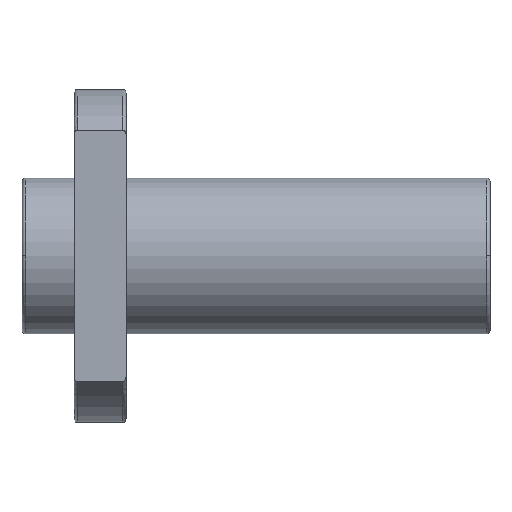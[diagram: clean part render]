
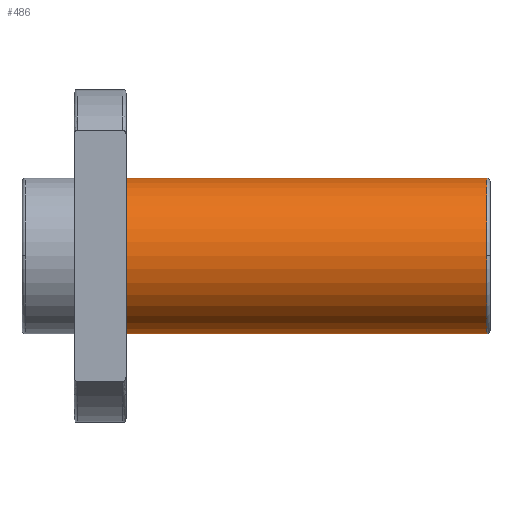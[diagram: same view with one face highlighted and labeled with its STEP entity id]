
A CAD part, top view. The second image highlights one B-rep face of the part: STEP entity #486.
In plain terms, the highlighted cylindrical face has radius 7.5 mm (diameter 15 mm), a partial arc.
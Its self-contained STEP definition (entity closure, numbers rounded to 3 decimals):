
#335 = TOROIDAL_SURFACE('',#336,7.18,0.32);
#336 = AXIS2_PLACEMENT_3D('',#337,#338,#339);
#337 = CARTESIAN_POINT('',(44.68,0.,0.));
#338 = DIRECTION('',(1.,0.,0.));
#339 = DIRECTION('',(0.,0.,-1.));
#347 = TOROIDAL_SURFACE('',#348,7.18,0.32);
#348 = AXIS2_PLACEMENT_3D('',#349,#350,#351);
#349 = CARTESIAN_POINT('',(44.68,0.,0.));
#350 = DIRECTION('',(1.,0.,0.));
#351 = DIRECTION('',(0.,0.,-1.));
#360 = VERTEX_POINT('',#361);
#361 = CARTESIAN_POINT('',(44.68,7.5,0.));
#376 = CYLINDRICAL_SURFACE('',#377,7.5);
#377 = AXIS2_PLACEMENT_3D('',#378,#379,#380);
#378 = CARTESIAN_POINT('',(27.34,0.,0.));
#379 = DIRECTION('',(1.,0.,0.));
#380 = DIRECTION('',(-0.,1.,0.));
#388 = EDGE_CURVE('',#360,#389,#391,.T.);
#389 = VERTEX_POINT('',#390);
#390 = CARTESIAN_POINT('',(44.68,0.,7.5));
#391 = SURFACE_CURVE('',#392,(#397,#404),.PCURVE_S1.);
#392 = CIRCLE('',#393,7.5);
#393 = AXIS2_PLACEMENT_3D('',#394,#395,#396);
#394 = CARTESIAN_POINT('',(44.68,0.,0.));
#395 = DIRECTION('',(1.,0.,0.));
#396 = DIRECTION('',(-0.,1.,0.));
#397 = PCURVE('',#335,#398);
#398 = DEFINITIONAL_REPRESENTATION('',(#399),#403);
#399 = LINE('',#400,#401);
#400 = CARTESIAN_POINT('',(1.571,0.));
#401 = VECTOR('',#402,1.);
#402 = DIRECTION('',(1.,0.));
#403 = ( GEOMETRIC_REPRESENTATION_CONTEXT(2) 
PARAMETRIC_REPRESENTATION_CONTEXT() REPRESENTATION_CONTEXT('2D SPACE',''
  ) );
#404 = PCURVE('',#405,#410);
#405 = CYLINDRICAL_SURFACE('',#406,7.5);
#406 = AXIS2_PLACEMENT_3D('',#407,#408,#409);
#407 = CARTESIAN_POINT('',(27.34,0.,0.));
#408 = DIRECTION('',(1.,0.,0.));
#409 = DIRECTION('',(-0.,1.,0.));
#410 = DEFINITIONAL_REPRESENTATION('',(#411),#415);
#411 = LINE('',#412,#413);
#412 = CARTESIAN_POINT('',(0.,17.34));
#413 = VECTOR('',#414,1.);
#414 = DIRECTION('',(1.,0.));
#415 = ( GEOMETRIC_REPRESENTATION_CONTEXT(2) 
PARAMETRIC_REPRESENTATION_CONTEXT() REPRESENTATION_CONTEXT('2D SPACE',''
  ) );
#486 = ADVANCED_FACE('',(#487),#405,.T.);
#487 = FACE_BOUND('',#488,.T.);
#488 = EDGE_LOOP('',(#489,#512,#541,#564,#586));
#489 = ORIENTED_EDGE('',*,*,#490,.F.);
#490 = EDGE_CURVE('',#491,#360,#493,.T.);
#491 = VERTEX_POINT('',#492);
#492 = CARTESIAN_POINT('',(10.,7.5,0.));
#493 = SURFACE_CURVE('',#494,(#498,#505),.PCURVE_S1.);
#494 = LINE('',#495,#496);
#495 = CARTESIAN_POINT('',(27.34,7.5,0.));
#496 = VECTOR('',#497,1.);
#497 = DIRECTION('',(1.,0.,0.));
#498 = PCURVE('',#405,#499);
#499 = DEFINITIONAL_REPRESENTATION('',(#500),#504);
#500 = LINE('',#501,#502);
#501 = CARTESIAN_POINT('',(0.,0.));
#502 = VECTOR('',#503,1.);
#503 = DIRECTION('',(0.,1.));
#504 = ( GEOMETRIC_REPRESENTATION_CONTEXT(2) 
PARAMETRIC_REPRESENTATION_CONTEXT() REPRESENTATION_CONTEXT('2D SPACE',''
  ) );
#505 = PCURVE('',#376,#506);
#506 = DEFINITIONAL_REPRESENTATION('',(#507),#511);
#507 = LINE('',#508,#509);
#508 = CARTESIAN_POINT('',(6.283,0.));
#509 = VECTOR('',#510,1.);
#510 = DIRECTION('',(0.,1.));
#511 = ( GEOMETRIC_REPRESENTATION_CONTEXT(2) 
PARAMETRIC_REPRESENTATION_CONTEXT() REPRESENTATION_CONTEXT('2D SPACE',''
  ) );
#512 = ORIENTED_EDGE('',*,*,#513,.T.);
#513 = EDGE_CURVE('',#491,#514,#516,.T.);
#514 = VERTEX_POINT('',#515);
#515 = CARTESIAN_POINT('',(10.,-7.5,0.));
#516 = SURFACE_CURVE('',#517,(#522,#529),.PCURVE_S1.);
#517 = CIRCLE('',#518,7.5);
#518 = AXIS2_PLACEMENT_3D('',#519,#520,#521);
#519 = CARTESIAN_POINT('',(10.,0.,0.));
#520 = DIRECTION('',(1.,0.,0.));
#521 = DIRECTION('',(-0.,1.,0.));
#522 = PCURVE('',#405,#523);
#523 = DEFINITIONAL_REPRESENTATION('',(#524),#528);
#524 = LINE('',#525,#526);
#525 = CARTESIAN_POINT('',(0.,-17.34));
#526 = VECTOR('',#527,1.);
#527 = DIRECTION('',(1.,0.));
#528 = ( GEOMETRIC_REPRESENTATION_CONTEXT(2) 
PARAMETRIC_REPRESENTATION_CONTEXT() REPRESENTATION_CONTEXT('2D SPACE',''
  ) );
#529 = PCURVE('',#530,#535);
#530 = PLANE('',#531);
#531 = AXIS2_PLACEMENT_3D('',#532,#533,#534);
#532 = CARTESIAN_POINT('',(10.,11.59,0.));
#533 = DIRECTION('',(1.,0.,0.));
#534 = DIRECTION('',(0.,1.,0.));
#535 = DEFINITIONAL_REPRESENTATION('',(#536),#540);
#536 = CIRCLE('',#537,7.5);
#537 = AXIS2_PLACEMENT_2D('',#538,#539);
#538 = CARTESIAN_POINT('',(-11.59,0.));
#539 = DIRECTION('',(1.,0.));
#540 = ( GEOMETRIC_REPRESENTATION_CONTEXT(2) 
PARAMETRIC_REPRESENTATION_CONTEXT() REPRESENTATION_CONTEXT('2D SPACE',''
  ) );
#541 = ORIENTED_EDGE('',*,*,#542,.F.);
#542 = EDGE_CURVE('',#543,#514,#545,.T.);
#543 = VERTEX_POINT('',#544);
#544 = CARTESIAN_POINT('',(44.68,-7.5,0.));
#545 = SURFACE_CURVE('',#546,(#550,#557),.PCURVE_S1.);
#546 = LINE('',#547,#548);
#547 = CARTESIAN_POINT('',(27.34,-7.5,0.));
#548 = VECTOR('',#549,1.);
#549 = DIRECTION('',(-1.,-0.,-0.));
#550 = PCURVE('',#405,#551);
#551 = DEFINITIONAL_REPRESENTATION('',(#552),#556);
#552 = LINE('',#553,#554);
#553 = CARTESIAN_POINT('',(3.142,0.));
#554 = VECTOR('',#555,1.);
#555 = DIRECTION('',(0.,-1.));
#556 = ( GEOMETRIC_REPRESENTATION_CONTEXT(2) 
PARAMETRIC_REPRESENTATION_CONTEXT() REPRESENTATION_CONTEXT('2D SPACE',''
  ) );
#557 = PCURVE('',#376,#558);
#558 = DEFINITIONAL_REPRESENTATION('',(#559),#563);
#559 = LINE('',#560,#561);
#560 = CARTESIAN_POINT('',(3.142,0.));
#561 = VECTOR('',#562,1.);
#562 = DIRECTION('',(0.,-1.));
#563 = ( GEOMETRIC_REPRESENTATION_CONTEXT(2) 
PARAMETRIC_REPRESENTATION_CONTEXT() REPRESENTATION_CONTEXT('2D SPACE',''
  ) );
#564 = ORIENTED_EDGE('',*,*,#565,.F.);
#565 = EDGE_CURVE('',#389,#543,#566,.T.);
#566 = SURFACE_CURVE('',#567,(#572,#579),.PCURVE_S1.);
#567 = CIRCLE('',#568,7.5);
#568 = AXIS2_PLACEMENT_3D('',#569,#570,#571);
#569 = CARTESIAN_POINT('',(44.68,0.,0.));
#570 = DIRECTION('',(1.,0.,0.));
#571 = DIRECTION('',(-0.,1.,0.));
#572 = PCURVE('',#405,#573);
#573 = DEFINITIONAL_REPRESENTATION('',(#574),#578);
#574 = LINE('',#575,#576);
#575 = CARTESIAN_POINT('',(0.,17.34));
#576 = VECTOR('',#577,1.);
#577 = DIRECTION('',(1.,0.));
#578 = ( GEOMETRIC_REPRESENTATION_CONTEXT(2) 
PARAMETRIC_REPRESENTATION_CONTEXT() REPRESENTATION_CONTEXT('2D SPACE',''
  ) );
#579 = PCURVE('',#347,#580);
#580 = DEFINITIONAL_REPRESENTATION('',(#581),#585);
#581 = LINE('',#582,#583);
#582 = CARTESIAN_POINT('',(1.571,0.));
#583 = VECTOR('',#584,1.);
#584 = DIRECTION('',(1.,0.));
#585 = ( GEOMETRIC_REPRESENTATION_CONTEXT(2) 
PARAMETRIC_REPRESENTATION_CONTEXT() REPRESENTATION_CONTEXT('2D SPACE',''
  ) );
#586 = ORIENTED_EDGE('',*,*,#388,.F.);
